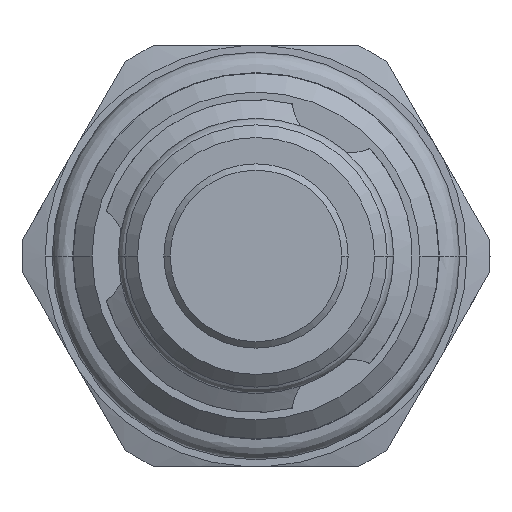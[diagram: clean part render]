
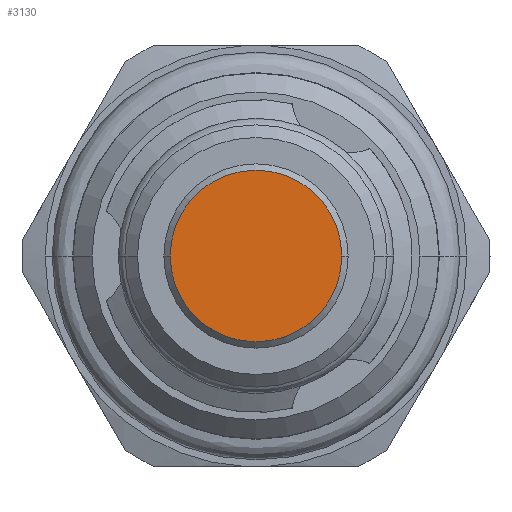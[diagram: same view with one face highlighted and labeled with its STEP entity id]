
A CAD part, front view. The second image highlights one B-rep face of the part: STEP entity #3130.
In plain terms, the highlighted planar face has unit normal (0, -1, 0).
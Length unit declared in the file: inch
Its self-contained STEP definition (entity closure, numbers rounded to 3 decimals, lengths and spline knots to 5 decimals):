
#1171=CARTESIAN_POINT('',(0.,-1.3935,0.));
#1172=DIRECTION('',(0.,1.,0.));
#1173=DIRECTION('',(-1.,0.,0.));
#1174=AXIS2_PLACEMENT_3D('',#1171,#1172,#1173);
#1181=CARTESIAN_POINT('',(0.,-1.3935,0.));
#1182=DIRECTION('',(0.,1.,0.));
#1183=DIRECTION('',(1.,0.,0.));
#1184=AXIS2_PLACEMENT_3D('',#1181,#1182,#1183);
#1508=CARTESIAN_POINT('',(-0.2035,-1.3935,0.));
#1509=CARTESIAN_POINT('',(0.2035,-1.3935,0.));
#1510=VERTEX_POINT('',#1508);
#1511=VERTEX_POINT('',#1509);
#3120=CARTESIAN_POINT('',(0.,-1.3935,0.));
#3121=DIRECTION('',(0.,1.,0.));
#3122=DIRECTION('',(1.,0.,0.));
#3123=AXIS2_PLACEMENT_3D('',#3120,#3121,#3122);
#3124=PLANE('',#3123);
#3126=ORIENTED_EDGE('',*,*,#3125,.T.);
#3127=ORIENTED_EDGE('',*,*,#3110,.T.);
#3128=EDGE_LOOP('',(#3126,#3127));
#3129=FACE_OUTER_BOUND('',#3128,.F.);
#3130=ADVANCED_FACE('',(#3129),#3124,.F.);
#1175=CIRCLE('',#1174,0.2035);
#1185=CIRCLE('',#1184,0.2035);
#3110=EDGE_CURVE('',#1510,#1511,#1175,.T.);
#3125=EDGE_CURVE('',#1511,#1510,#1185,.T.);
